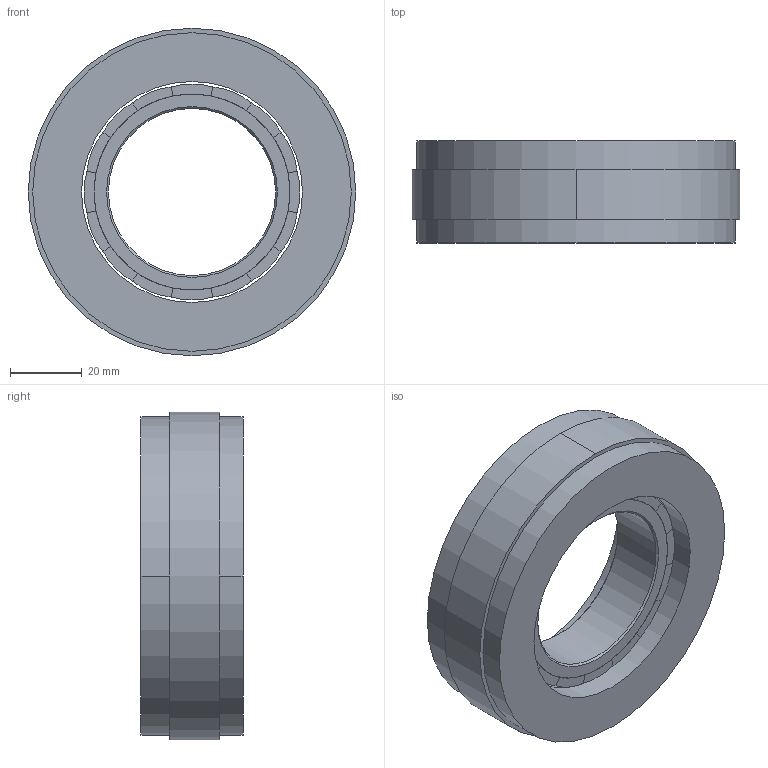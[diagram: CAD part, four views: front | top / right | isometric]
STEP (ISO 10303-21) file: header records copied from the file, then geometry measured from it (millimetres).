
FILE_DESCRIPTION (( 'STEP AP203' ), '1' );
FILE_NAME ('307091159SS 无框力矩电机（FMC09114-0063-3046N-8DS01）-V1.1.STEP', '2026-04-13T02:56:03', ( '' ), ( '' ), 'SwSTEP 2.0', 'SolidWorks 2023', '' );
FILE_SCHEMA (( 'CONFIG_CONTROL_DESIGN' ));
Length unit declared in the file: millimetre
Products named in the file (1): 307091159SS 无框力矩电机（FMC09114-0063-3046N-8DS01）-V1.1
Bounding box: 91.5 x 28.5 x 91.5 mm (x, y, z)
Volume: 115098.9 mm3; surface area: 48078.6 mm2
Topology: 20 solids, 20 shells, 124 faces, 248 edges, 164 vertices
Faces by surface type: plane 72, cylinder 48, cone 4
Entity records: 3295 total; most frequent: DIRECTION 598, CARTESIAN_POINT 537, ORIENTED_EDGE 496, EDGE_CURVE 248, AXIS2_PLACEMENT_3D 225, VERTEX_POINT 164, VECTOR 148, LINE 148
